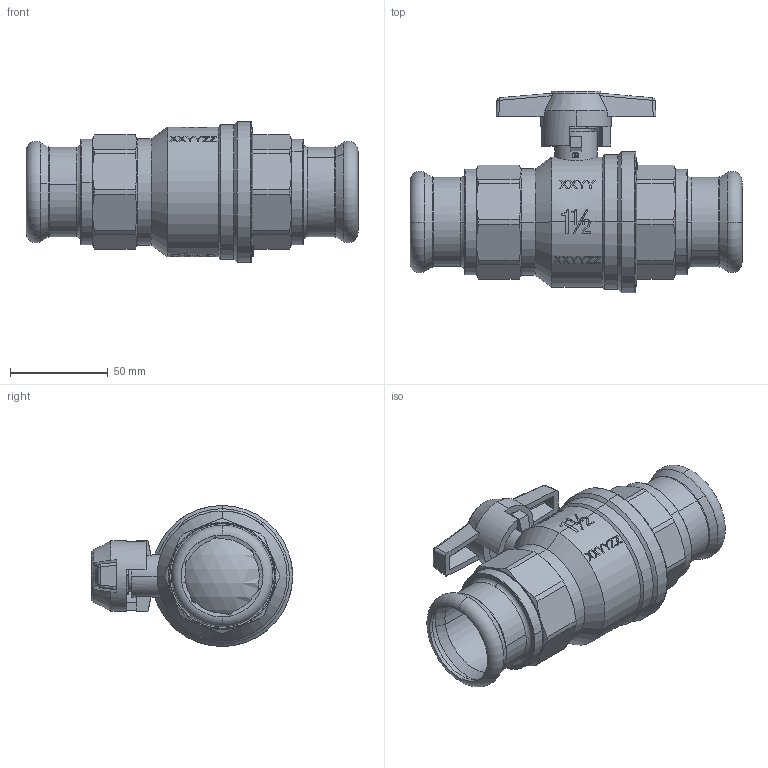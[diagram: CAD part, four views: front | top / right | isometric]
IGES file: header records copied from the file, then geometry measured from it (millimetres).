
Global section: file name: No Iges File Name specified; native system: AutoDesk Inventor R12.0; preprocessor: AutoDesk Inventor Iges Exporter R12.0; date: 20111130.120155; units: millimetre
Bounding box: 170.2 x 103.15 x 72.3 mm (x, y, z)
Volume: 88565.1 mm3; surface area: 104619.3 mm2
Topology: 1 solids, 9 shells, 935 faces, 2731 edges, 1877 vertices
Faces by surface type: plane 377, bspline 224, revolution 111, cylinder 100, cone 88, torus 26, sphere 9
